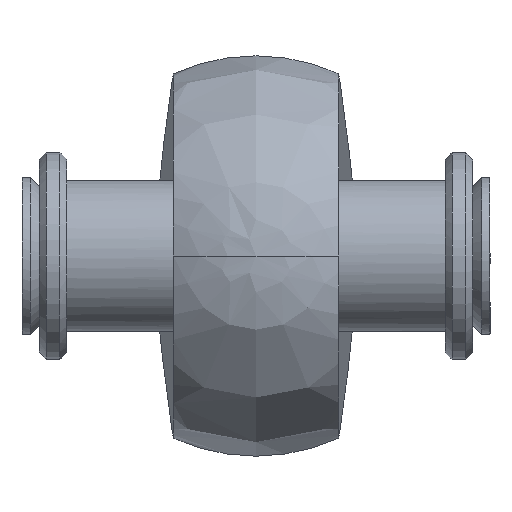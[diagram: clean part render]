
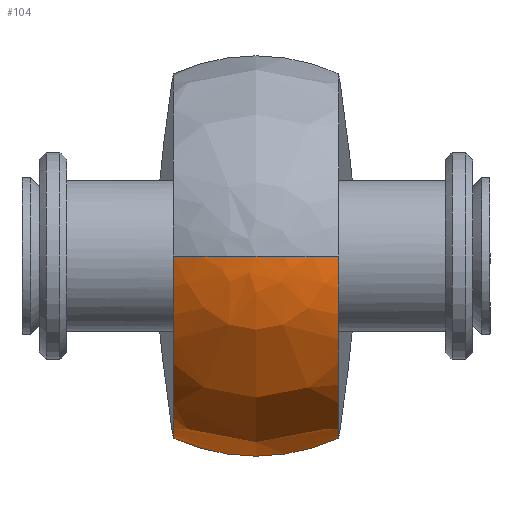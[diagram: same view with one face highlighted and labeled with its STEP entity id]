
A CAD part, left-side view. The second image highlights one B-rep face of the part: STEP entity #104.
In plain terms, the highlighted free-form (B-spline) face has degree [2, 2] with [9, 5] control points.
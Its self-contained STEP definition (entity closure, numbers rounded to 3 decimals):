
#104=ADVANCED_FACE('',(#178),#1243,.T.);
#178=FACE_OUTER_BOUND('',#262,.T.);
#262=EDGE_LOOP('',(#608,#609,#610,#611,#612));
#608=ORIENTED_EDGE('',*,*,#829,.T.);
#609=ORIENTED_EDGE('',*,*,#834,.F.);
#610=ORIENTED_EDGE('',*,*,#835,.F.);
#611=ORIENTED_EDGE('',*,*,#811,.T.);
#612=ORIENTED_EDGE('',*,*,#836,.T.);
#811=EDGE_CURVE('',#1160,#1159,#1011,.T.);
#829=EDGE_CURVE('',#1168,#1171,#1026,.T.);
#834=EDGE_CURVE('',#1170,#1171,#1030,.T.);
#835=EDGE_CURVE('',#1160,#1170,#1031,.T.);
#836=EDGE_CURVE('',#1159,#1168,#1032,.T.);
#1011=(
BOUNDED_CURVE()
B_SPLINE_CURVE(2,(#3276,#3277,#3278),.UNSPECIFIED.,.F.,.F.)
B_SPLINE_CURVE_WITH_KNOTS((3,3),(-20.735,0.),.UNSPECIFIED.)
CURVE()
GEOMETRIC_REPRESENTATION_ITEM()
RATIONAL_B_SPLINE_CURVE((1.,0.707,1.))
REPRESENTATION_ITEM('')
);
#1026=(
BOUNDED_CURVE()
B_SPLINE_CURVE(2,(#3327,#3328,#3329),.UNSPECIFIED.,.F.,.F.)
B_SPLINE_CURVE_WITH_KNOTS((3,3),(-41.47,-20.735),
 .UNSPECIFIED.)
CURVE()
GEOMETRIC_REPRESENTATION_ITEM()
RATIONAL_B_SPLINE_CURVE((1.,0.707,1.))
REPRESENTATION_ITEM('')
);
#1030=(
BOUNDED_CURVE()
B_SPLINE_CURVE(2,(#3341,#3342,#3343),.UNSPECIFIED.,.F.,.F.)
B_SPLINE_CURVE_WITH_KNOTS((3,3),(-1.571,-1.144),
 .UNSPECIFIED.)
CURVE()
GEOMETRIC_REPRESENTATION_ITEM()
RATIONAL_B_SPLINE_CURVE((1.,0.977,1.))
REPRESENTATION_ITEM('')
);
#1031=(
BOUNDED_CURVE()
B_SPLINE_CURVE(2,(#3344,#3345,#3346),.UNSPECIFIED.,.F.,.F.)
B_SPLINE_CURVE_WITH_KNOTS((3,3),(0.,6.186),.UNSPECIFIED.)
CURVE()
GEOMETRIC_REPRESENTATION_ITEM()
RATIONAL_B_SPLINE_CURVE((1.,0.977,1.))
REPRESENTATION_ITEM('')
);
#1032=(
BOUNDED_CURVE()
B_SPLINE_CURVE(2,(#3347,#3348,#3349),.UNSPECIFIED.,.F.,.F.)
B_SPLINE_CURVE_WITH_KNOTS((3,3),(0.,12.372),.UNSPECIFIED.)
CURVE()
GEOMETRIC_REPRESENTATION_ITEM()
RATIONAL_B_SPLINE_CURVE((1.,0.91,1.))
REPRESENTATION_ITEM('')
);
#1159=VERTEX_POINT('',#3114);
#1160=VERTEX_POINT('',#3115);
#1168=VERTEX_POINT('',#3123);
#1170=VERTEX_POINT('',#3125);
#1171=VERTEX_POINT('',#3126);
#1243=(
BOUNDED_SURFACE()
B_SPLINE_SURFACE(2,2,((#2928,#2929,#2930,#2931,#2932),(#2933,#2934,#2935,
#2936,#2937),(#2938,#2939,#2940,#2941,#2942),(#2943,#2944,#2945,#2946,#2947),
(#2948,#2949,#2950,#2951,#2952),(#2953,#2954,#2955,#2956,#2957),(#2958,
#2959,#2960,#2961,#2962),(#2963,#2964,#2965,#2966,#2967),(#2968,#2969,#2970,
#2971,#2972)),.UNSPECIFIED.,.T.,.F.,.F.)
B_SPLINE_SURFACE_WITH_KNOTS((3,2,2,2,3),(3,2,3),(0.,1.571,3.142,
4.712,6.283),(-1.571,0.,1.571),
 .UNSPECIFIED.)
GEOMETRIC_REPRESENTATION_ITEM()
RATIONAL_B_SPLINE_SURFACE(((1.,0.707,1.,0.707,1.),
(0.707,0.5,0.707,0.5,0.707),(1.,0.707,
1.,0.707,1.),(0.707,0.5,0.707,0.5,0.707),
(1.,0.707,1.,0.707,1.),(0.707,0.5,0.707,
0.5,0.707),(1.,0.707,1.,0.707,1.),(0.707,
0.5,0.707,0.5,0.707),(1.,0.707,1.,0.707,
1.)))
REPRESENTATION_ITEM('')
SURFACE()
);
#2928=CARTESIAN_POINT('',(-20.5,0.,0.));
#2929=CARTESIAN_POINT('',(-20.5,-14.5,0.));
#2930=CARTESIAN_POINT('',(-6.,-14.5,0.));
#2931=CARTESIAN_POINT('',(8.5,-14.5,0.));
#2932=CARTESIAN_POINT('',(8.5,0.,0.));
#2933=CARTESIAN_POINT('',(-20.5,0.,0.));
#2934=CARTESIAN_POINT('',(-20.5,-14.5,-14.5));
#2935=CARTESIAN_POINT('',(-6.,-14.5,-14.5));
#2936=CARTESIAN_POINT('',(8.5,-14.5,-14.5));
#2937=CARTESIAN_POINT('',(8.5,0.,0.));
#2938=CARTESIAN_POINT('',(-20.5,0.,0.));
#2939=CARTESIAN_POINT('',(-20.5,0.,-14.5));
#2940=CARTESIAN_POINT('',(-6.,0.,-14.5));
#2941=CARTESIAN_POINT('',(8.5,0.,-14.5));
#2942=CARTESIAN_POINT('',(8.5,0.,0.));
#2943=CARTESIAN_POINT('',(-20.5,0.,0.));
#2944=CARTESIAN_POINT('',(-20.5,14.5,-14.5));
#2945=CARTESIAN_POINT('',(-6.,14.5,-14.5));
#2946=CARTESIAN_POINT('',(8.5,14.5,-14.5));
#2947=CARTESIAN_POINT('',(8.5,0.,0.));
#2948=CARTESIAN_POINT('',(-20.5,0.,0.));
#2949=CARTESIAN_POINT('',(-20.5,14.5,0.));
#2950=CARTESIAN_POINT('',(-6.,14.5,0.));
#2951=CARTESIAN_POINT('',(8.5,14.5,0.));
#2952=CARTESIAN_POINT('',(8.5,0.,0.));
#2953=CARTESIAN_POINT('',(-20.5,0.,0.));
#2954=CARTESIAN_POINT('',(-20.5,14.5,14.5));
#2955=CARTESIAN_POINT('',(-6.,14.5,14.5));
#2956=CARTESIAN_POINT('',(8.5,14.5,14.5));
#2957=CARTESIAN_POINT('',(8.5,0.,0.));
#2958=CARTESIAN_POINT('',(-20.5,0.,0.));
#2959=CARTESIAN_POINT('',(-20.5,0.,14.5));
#2960=CARTESIAN_POINT('',(-6.,0.,14.5));
#2961=CARTESIAN_POINT('',(8.5,0.,14.5));
#2962=CARTESIAN_POINT('',(8.5,0.,0.));
#2963=CARTESIAN_POINT('',(-20.5,0.,0.));
#2964=CARTESIAN_POINT('',(-20.5,-14.5,14.5));
#2965=CARTESIAN_POINT('',(-6.,-14.5,14.5));
#2966=CARTESIAN_POINT('',(8.5,-14.5,14.5));
#2967=CARTESIAN_POINT('',(8.5,0.,0.));
#2968=CARTESIAN_POINT('',(-20.5,0.,0.));
#2969=CARTESIAN_POINT('',(-20.5,-14.5,0.));
#2970=CARTESIAN_POINT('',(-6.,-14.5,0.));
#2971=CARTESIAN_POINT('',(8.5,-14.5,0.));
#2972=CARTESIAN_POINT('',(8.5,0.,0.));
#3114=CARTESIAN_POINT('',(-6.,6.,-13.2));
#3115=CARTESIAN_POINT('',(-19.2,6.,0.));
#3123=CARTESIAN_POINT('',(-6.,-6.,-13.2));
#3125=CARTESIAN_POINT('',(-20.5,0.,0.));
#3126=CARTESIAN_POINT('',(-19.2,-6.,0.));
#3276=CARTESIAN_POINT('',(-19.2,6.,0.));
#3277=CARTESIAN_POINT('',(-19.2,6.,-13.2));
#3278=CARTESIAN_POINT('',(-6.,6.,-13.2));
#3327=CARTESIAN_POINT('',(-6.,-6.,-13.2));
#3328=CARTESIAN_POINT('',(-19.2,-6.,-13.2));
#3329=CARTESIAN_POINT('',(-19.2,-6.,0.));
#3341=CARTESIAN_POINT('',(-20.5,0.,0.));
#3342=CARTESIAN_POINT('',(-20.5,-3.141,0.));
#3343=CARTESIAN_POINT('',(-19.2,-6.,0.));
#3344=CARTESIAN_POINT('',(-19.2,6.,0.));
#3345=CARTESIAN_POINT('',(-20.5,3.141,0.));
#3346=CARTESIAN_POINT('',(-20.5,0.,0.));
#3347=CARTESIAN_POINT('',(-6.,6.,-13.2));
#3348=CARTESIAN_POINT('',(-6.,0.,-15.928));
#3349=CARTESIAN_POINT('',(-6.,-6.,-13.2));
